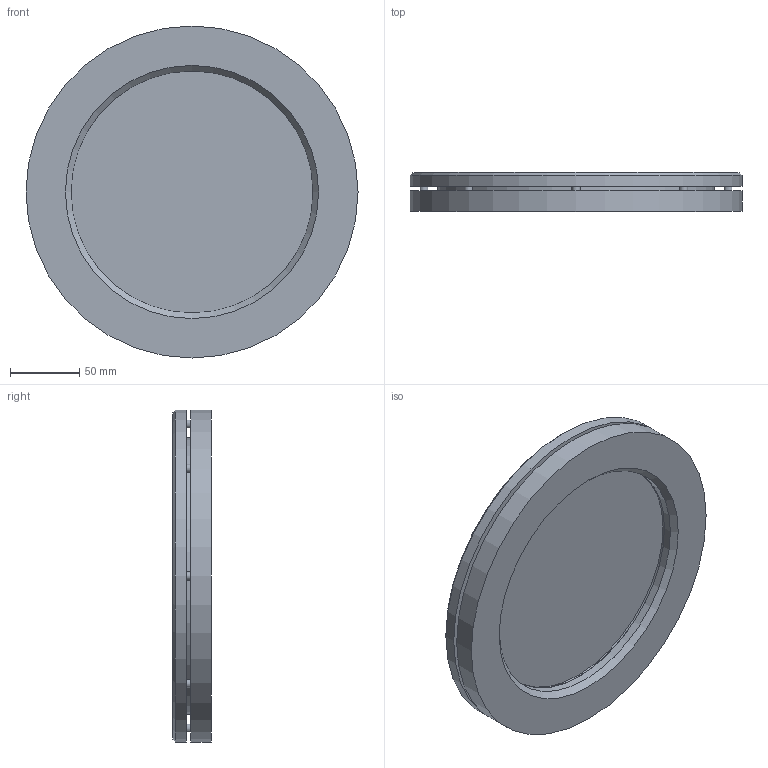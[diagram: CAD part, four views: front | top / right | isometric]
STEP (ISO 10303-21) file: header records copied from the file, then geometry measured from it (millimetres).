
FILE_DESCRIPTION(/* description */ ('Unknown'),/* implementation_level */ '2;1');
FILE_NAME(/* name */ 'Armatur 28120 drucklos DN 150',/* time_stamp */ '2016-01-20T07:54:47+01:00',/* author */ ('Unknown'),/* organization */ ('Unknown'),/* preprocessor_version */ 'ST-DEVELOPER v16.7',/* originating_system */ 'DEX',/* authorisation */ $);
FILE_SCHEMA (('CONFIG_CONTROL_DESIGN'));
Length unit declared in the file: millimetre
Products named in the file (6): 0206.235.38_01; 0863.000507.38_01; socket head thin cap screw_din; 1346.205.38_01; 1775.095.38_01; 1345.205.38_01
Assembly tree (13 placements, depth 2):
  0206.235.38_01
    0863.000507.38_01  x2
    socket head thin cap screw_din  x8
    1346.205.38_01
    1775.095.38_01
    1345.205.38_01
Bounding box: 240 x 28 x 240 mm (x, y, z)
Volume: 777215.1 mm3; surface area: 228272.7 mm2
Topology: 13 solids, 13 shells, 236 faces, 492 edges, 300 vertices
Faces by surface type: plane 140, cylinder 51, cone 29, torus 16
Full cylindrical faces by diameter (mm): 5 x8, 6 x8, 7 x8, 10 x8, 11 x8, 175 x4, 200 x1, 202 x2, 203 x2, 240 x2
Entity records: 2164 total; most frequent: DIRECTION 390, CARTESIAN_POINT 312, ORIENTED_EDGE 216, AXIS2_PLACEMENT_3D 183, FACE_BOUND 179, EDGE_LOOP 170, EDGE_CURVE 108, VERTEX_POINT 105
